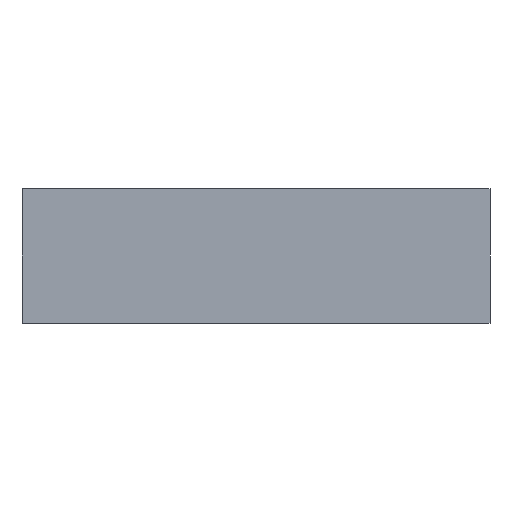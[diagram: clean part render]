
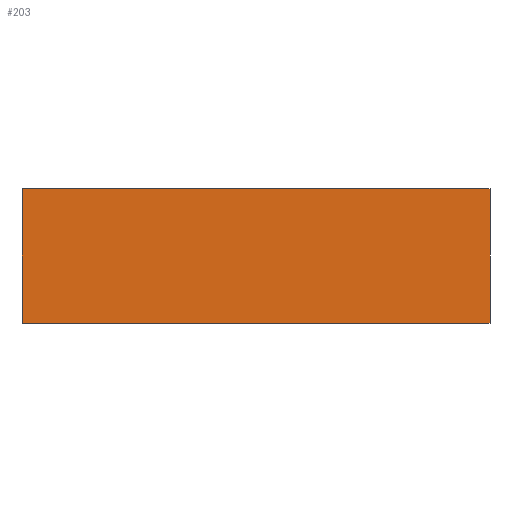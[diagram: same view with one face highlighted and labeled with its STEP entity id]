
A CAD part, front view. The second image highlights one B-rep face of the part: STEP entity #203.
In plain terms, the highlighted planar face has unit normal (0, -1, 0).
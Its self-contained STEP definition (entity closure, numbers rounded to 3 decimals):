
#14 = ORIENTED_EDGE ( 'NONE', *, *, #283, .T. ) ;
#30 = CARTESIAN_POINT ( 'NONE',  ( 1.749, -0.034, -10. ) ) ;
#32 = DIRECTION ( 'NONE',  ( 0., 0., 1. ) ) ;
#35 = VERTEX_POINT ( 'NONE', #309 ) ;
#45 = VERTEX_POINT ( 'NONE', #370 ) ;
#48 = CARTESIAN_POINT ( 'NONE',  ( 0., -0.034, -10. ) ) ;
#66 = CARTESIAN_POINT ( 'NONE',  ( 36.438, -0.034, -10. ) ) ;
#70 = EDGE_LOOP ( 'NONE', ( #479, #255, #14, #239 ) ) ;
#73 = VECTOR ( 'NONE', #477, 1000. ) ;
#118 = PLANE ( 'NONE',  #418 ) ;
#128 = FACE_OUTER_BOUND ( 'NONE', #70, .T. ) ;
#169 = LINE ( 'NONE', #208, #219 ) ;
#170 = VERTEX_POINT ( 'NONE', #430 ) ;
#173 = LINE ( 'NONE', #480, #73 ) ;
#203 = ADVANCED_FACE ( 'NONE', ( #128 ), #118, .T. ) ;
#205 = DIRECTION ( 'NONE',  ( 0., -1., 0. ) ) ;
#208 = CARTESIAN_POINT ( 'NONE',  ( 0., -0.034, -10. ) ) ;
#219 = VECTOR ( 'NONE', #258, 1000. ) ;
#222 = CARTESIAN_POINT ( 'NONE',  ( 36.438, -0.034, -10. ) ) ;
#239 = ORIENTED_EDGE ( 'NONE', *, *, #498, .T. ) ;
#255 = ORIENTED_EDGE ( 'NONE', *, *, #486, .F. ) ;
#258 = DIRECTION ( 'NONE',  ( 1., 0., 0. ) ) ;
#268 = VECTOR ( 'NONE', #494, 1000. ) ;
#283 = EDGE_CURVE ( 'NONE', #35, #319, #169, .T. ) ;
#303 = VECTOR ( 'NONE', #32, 1000. ) ;
#309 = CARTESIAN_POINT ( 'NONE',  ( 1.749, -0.034, -10. ) ) ;
#319 = VERTEX_POINT ( 'NONE', #66 ) ;
#343 = LINE ( 'NONE', #30, #268 ) ;
#370 = CARTESIAN_POINT ( 'NONE',  ( 36.438, -0.034, 0. ) ) ;
#393 = DIRECTION ( 'NONE',  ( 1., 0., 0. ) ) ;
#394 = EDGE_CURVE ( 'NONE', #170, #45, #173, .T. ) ;
#418 = AXIS2_PLACEMENT_3D ( 'NONE', #48, #205, #393 ) ;
#430 = CARTESIAN_POINT ( 'NONE',  ( 1.749, -0.034, 0. ) ) ;
#454 = LINE ( 'NONE', #222, #303 ) ;
#477 = DIRECTION ( 'NONE',  ( 1., 0., 0. ) ) ;
#479 = ORIENTED_EDGE ( 'NONE', *, *, #394, .F. ) ;
#480 = CARTESIAN_POINT ( 'NONE',  ( 0., -0.034, 0. ) ) ;
#486 = EDGE_CURVE ( 'NONE', #35, #170, #343, .T. ) ;
#494 = DIRECTION ( 'NONE',  ( 0., 0., 1. ) ) ;
#498 = EDGE_CURVE ( 'NONE', #319, #45, #454, .T. ) ;
